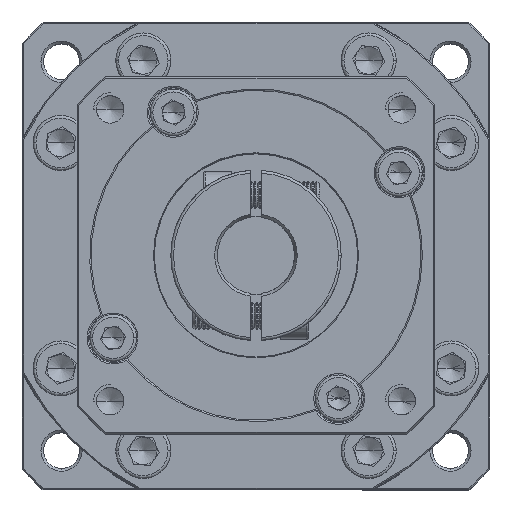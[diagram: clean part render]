
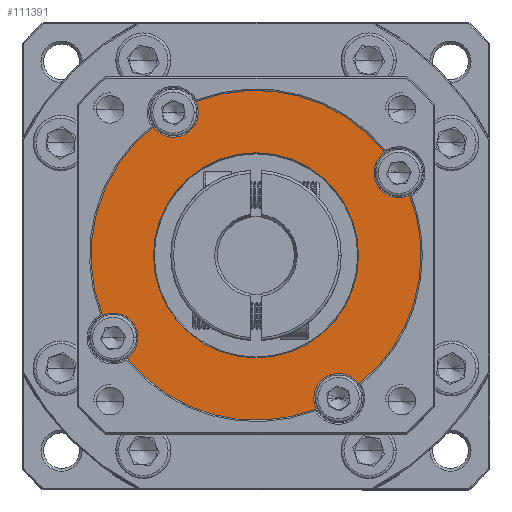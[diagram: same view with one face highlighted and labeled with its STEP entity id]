
A CAD part, top view. The second image highlights one B-rep face of the part: STEP entity #111391.
In plain terms, the highlighted planar face has unit normal (0, 0, 1).
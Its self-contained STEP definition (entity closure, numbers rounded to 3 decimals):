
#1340 = CARTESIAN_POINT ( 'NONE',  ( -65.839, 19.997, 4.648 ) ) ;
#1518 = CARTESIAN_POINT ( 'NONE',  ( -37.907, 30.942, 4.648 ) ) ;
#1655 = CARTESIAN_POINT ( 'NONE',  ( -54.894, -7.935, 4.648 ) ) ;
#2735 = EDGE_CURVE ( 'NONE', #70749, #61583, #47654, .T. ) ;
#2831 = CARTESIAN_POINT ( 'NONE',  ( -89.284, 1.28, 4.648 ) ) ;
#3499 = AXIS2_PLACEMENT_3D ( 'NONE', #64846, #10087, #74085 ) ;
#7592 = DIRECTION ( 'NONE',  ( 1., 0., 0. ) ) ;
#8053 = DIRECTION ( 'NONE',  ( 1., 0., 0. ) ) ;
#8427 = CARTESIAN_POINT ( 'NONE',  ( -65.839, 19.997, 4.648 ) ) ;
#8484 = CARTESIAN_POINT ( 'NONE',  ( -65.839, 19.997, 4.648 ) ) ;
#10087 = DIRECTION ( 'NONE',  ( 0., 0., 1. ) ) ;
#10164 = ORIENTED_EDGE ( 'NONE', *, *, #42030, .T. ) ;
#10461 = DIRECTION ( 'NONE',  ( 1., 0., 0. ) ) ;
#11905 = FACE_BOUND ( 'NONE', #18917, .T. ) ;
#15077 = CARTESIAN_POINT ( 'NONE',  ( -91.82, 4.997, 4.648 ) ) ;
#17523 = DIRECTION ( 'NONE',  ( 1., 0., 0. ) ) ;
#17561 = CARTESIAN_POINT ( 'NONE',  ( -65.839, 19.997, 4.648 ) ) ;
#17597 = DIRECTION ( 'NONE',  ( 1., 0., 0. ) ) ;
#18917 = EDGE_LOOP ( 'NONE', ( #28776, #90571 ) ) ;
#19283 = DIRECTION ( 'NONE',  ( 0., 0., 1. ) ) ;
#21914 = VERTEX_POINT ( 'NONE', #24282 ) ;
#24194 = DIRECTION ( 'NONE',  ( 1., 0., 0. ) ) ;
#24282 = CARTESIAN_POINT ( 'NONE',  ( -47.122, -3.447, 4.648 ) ) ;
#26481 = AXIS2_PLACEMENT_3D ( 'NONE', #117590, #62773, #8053 ) ;
#26698 = DIRECTION ( 'NONE',  ( 1., 0., 0. ) ) ;
#28578 = CARTESIAN_POINT ( 'NONE',  ( -50.839, -5.983, 4.648 ) ) ;
#28776 = ORIENTED_EDGE ( 'NONE', *, *, #2735, .T. ) ;
#28827 = AXIS2_PLACEMENT_3D ( 'NONE', #8484, #72455, #17597 ) ;
#28843 = EDGE_CURVE ( 'NONE', #66761, #40594, #66219, .T. ) ;
#29763 = EDGE_CURVE ( 'NONE', #51906, #57929, #49898, .T. ) ;
#31353 = CIRCLE ( 'NONE', #37103, 4.5 ) ;
#31896 = CARTESIAN_POINT ( 'NONE',  ( -91.82, 4.997, 4.648 ) ) ;
#32578 = CIRCLE ( 'NONE', #57863, 30. ) ;
#32986 = CARTESIAN_POINT ( 'NONE',  ( -65.839, 19.997, 4.648 ) ) ;
#34464 = ORIENTED_EDGE ( 'NONE', *, *, #84269, .F. ) ;
#35115 = ORIENTED_EDGE ( 'NONE', *, *, #53298, .T. ) ;
#35420 = CARTESIAN_POINT ( 'NONE',  ( -35.839, 19.997, 4.648 ) ) ;
#36562 = DIRECTION ( 'NONE',  ( 0., 0., 1. ) ) ;
#37103 = AXIS2_PLACEMENT_3D ( 'NONE', #15077, #79086, #24194 ) ;
#37759 = DIRECTION ( 'NONE',  ( 1., 0., 0. ) ) ;
#37909 = ORIENTED_EDGE ( 'NONE', *, *, #28843, .F. ) ;
#38065 = CARTESIAN_POINT ( 'NONE',  ( -87.32, 4.997, 4.648 ) ) ;
#38917 = AXIS2_PLACEMENT_3D ( 'NONE', #8427, #72388, #17523 ) ;
#39135 = AXIS2_PLACEMENT_3D ( 'NONE', #17561, #81621, #26698 ) ;
#40447 = DIRECTION ( 'NONE',  ( 0., 0., 1. ) ) ;
#40594 = VERTEX_POINT ( 'NONE', #97085 ) ;
#41067 = DIRECTION ( 'NONE',  ( 1., 0., 0. ) ) ;
#42030 = EDGE_CURVE ( 'NONE', #66761, #97474, #81001, .T. ) ;
#42064 = DIRECTION ( 'NONE',  ( 0., 0., 1. ) ) ;
#42214 = DIRECTION ( 'NONE',  ( 1., 0., 0. ) ) ;
#43555 = DIRECTION ( 'NONE',  ( 0., 0., 1. ) ) ;
#47462 = ORIENTED_EDGE ( 'NONE', *, *, #61823, .F. ) ;
#47654 = CIRCLE ( 'NONE', #100955, 18.644 ) ;
#49898 = CIRCLE ( 'NONE', #28827, 30. ) ;
#50728 = VERTEX_POINT ( 'NONE', #38065 ) ;
#51906 = VERTEX_POINT ( 'NONE', #2831 ) ;
#52029 = CIRCLE ( 'NONE', #3499, 4.5 ) ;
#52950 = ORIENTED_EDGE ( 'NONE', *, *, #106378, .T. ) ;
#53298 = EDGE_CURVE ( 'NONE', #21914, #93131, #32578, .T. ) ;
#57212 = AXIS2_PLACEMENT_3D ( 'NONE', #117149, #62305, #7592 ) ;
#57863 = AXIS2_PLACEMENT_3D ( 'NONE', #74160, #19283, #83346 ) ;
#57929 = VERTEX_POINT ( 'NONE', #1655 ) ;
#58611 = AXIS2_PLACEMENT_3D ( 'NONE', #1340, #65230, #10461 ) ;
#60739 = ORIENTED_EDGE ( 'NONE', *, *, #74019, .F. ) ;
#61384 = AXIS2_PLACEMENT_3D ( 'NONE', #96839, #42064, #106102 ) ;
#61583 = VERTEX_POINT ( 'NONE', #102397 ) ;
#61823 = EDGE_CURVE ( 'NONE', #50728, #64706, #97844, .T. ) ;
#62039 = CIRCLE ( 'NONE', #69104, 4.5 ) ;
#62305 = DIRECTION ( 'NONE',  ( 0., 0., 1. ) ) ;
#62773 = DIRECTION ( 'NONE',  ( 0., 0., 1. ) ) ;
#63522 = CARTESIAN_POINT ( 'NONE',  ( -55.339, -5.983, 4.648 ) ) ;
#64706 = VERTEX_POINT ( 'NONE', #85463 ) ;
#64846 = CARTESIAN_POINT ( 'NONE',  ( -50.839, -5.983, 4.648 ) ) ;
#65230 = DIRECTION ( 'NONE',  ( 0., 0., -1. ) ) ;
#65775 = EDGE_CURVE ( 'NONE', #40594, #111244, #79405, .T. ) ;
#66219 = CIRCLE ( 'NONE', #67142, 4.5 ) ;
#66761 = VERTEX_POINT ( 'NONE', #94737 ) ;
#67142 = AXIS2_PLACEMENT_3D ( 'NONE', #91442, #36562, #100609 ) ;
#67248 = CARTESIAN_POINT ( 'NONE',  ( -76.784, 47.929, 4.648 ) ) ;
#67375 = AXIS2_PLACEMENT_3D ( 'NONE', #31896, #95876, #41067 ) ;
#69104 = AXIS2_PLACEMENT_3D ( 'NONE', #28578, #92648, #37759 ) ;
#70749 = VERTEX_POINT ( 'NONE', #115431 ) ;
#71559 = CIRCLE ( 'NONE', #57212, 4.5 ) ;
#72388 = DIRECTION ( 'NONE',  ( 0., 0., 1. ) ) ;
#72455 = DIRECTION ( 'NONE',  ( 0., 0., 1. ) ) ;
#73647 = CIRCLE ( 'NONE', #39135, 30. ) ;
#74019 = EDGE_CURVE ( 'NONE', #51906, #50728, #31353, .T. ) ;
#74085 = DIRECTION ( 'NONE',  ( 1., 0., 0. ) ) ;
#74160 = CARTESIAN_POINT ( 'NONE',  ( -65.839, 19.997, 4.648 ) ) ;
#74955 = ORIENTED_EDGE ( 'NONE', *, *, #76650, .F. ) ;
#75825 = VERTEX_POINT ( 'NONE', #101201 ) ;
#76650 = EDGE_CURVE ( 'NONE', #75825, #92533, #95218, .T. ) ;
#77633 = CIRCLE ( 'NONE', #86065, 30. ) ;
#79086 = DIRECTION ( 'NONE',  ( 0., 0., 1. ) ) ;
#79290 = ORIENTED_EDGE ( 'NONE', *, *, #65775, .F. ) ;
#79405 = CIRCLE ( 'NONE', #26481, 4.5 ) ;
#80901 = CARTESIAN_POINT ( 'NONE',  ( -76.339, 45.978, 4.648 ) ) ;
#81001 = CIRCLE ( 'NONE', #38917, 30. ) ;
#81621 = DIRECTION ( 'NONE',  ( 0., 0., 1. ) ) ;
#81973 = ORIENTED_EDGE ( 'NONE', *, *, #115495, .F. ) ;
#82034 = FACE_OUTER_BOUND ( 'NONE', #89092, .T. ) ;
#83346 = DIRECTION ( 'NONE',  ( 1., 0., 0. ) ) ;
#84269 = EDGE_CURVE ( 'NONE', #88641, #57929, #52029, .T. ) ;
#85463 = CARTESIAN_POINT ( 'NONE',  ( -93.771, 9.052, 4.648 ) ) ;
#85809 = PLANE ( 'NONE',  #101891 ) ;
#86065 = AXIS2_PLACEMENT_3D ( 'NONE', #98334, #43555, #107612 ) ;
#88641 = VERTEX_POINT ( 'NONE', #63522 ) ;
#89092 = EDGE_LOOP ( 'NONE', ( #60739, #91170, #34464, #103968, #35115, #101982, #79290, #37909, #10164, #81973, #74955, #52950, #47462 ) ) ;
#90571 = ORIENTED_EDGE ( 'NONE', *, *, #92722, .T. ) ;
#91170 = ORIENTED_EDGE ( 'NONE', *, *, #29763, .T. ) ;
#91442 = CARTESIAN_POINT ( 'NONE',  ( -39.859, 34.997, 4.648 ) ) ;
#92321 = CIRCLE ( 'NONE', #58611, 18.644 ) ;
#92533 = VERTEX_POINT ( 'NONE', #80901 ) ;
#92648 = DIRECTION ( 'NONE',  ( 0., 0., 1. ) ) ;
#92722 = EDGE_CURVE ( 'NONE', #61583, #70749, #92321, .T. ) ;
#93131 = VERTEX_POINT ( 'NONE', #35420 ) ;
#94737 = CARTESIAN_POINT ( 'NONE',  ( -42.395, 38.715, 4.648 ) ) ;
#95146 = EDGE_CURVE ( 'NONE', #21914, #88641, #62039, .T. ) ;
#95218 = CIRCLE ( 'NONE', #61384, 4.5 ) ;
#95293 = CARTESIAN_POINT ( 'NONE',  ( -65.839, 19.997, 4.648 ) ) ;
#95876 = DIRECTION ( 'NONE',  ( 0., 0., 1. ) ) ;
#96839 = CARTESIAN_POINT ( 'NONE',  ( -80.839, 45.978, 4.648 ) ) ;
#96987 = DIRECTION ( 'NONE',  ( 0., 0., -1. ) ) ;
#97085 = CARTESIAN_POINT ( 'NONE',  ( -44.359, 34.997, 4.648 ) ) ;
#97474 = VERTEX_POINT ( 'NONE', #67248 ) ;
#97844 = CIRCLE ( 'NONE', #67375, 4.5 ) ;
#98334 = CARTESIAN_POINT ( 'NONE',  ( -65.839, 19.997, 4.648 ) ) ;
#100609 = DIRECTION ( 'NONE',  ( 1., 0., 0. ) ) ;
#100955 = AXIS2_PLACEMENT_3D ( 'NONE', #32986, #96987, #42214 ) ;
#101201 = CARTESIAN_POINT ( 'NONE',  ( -84.557, 43.442, 4.648 ) ) ;
#101891 = AXIS2_PLACEMENT_3D ( 'NONE', #95293, #40447, #104519 ) ;
#101982 = ORIENTED_EDGE ( 'NONE', *, *, #102369, .T. ) ;
#102369 = EDGE_CURVE ( 'NONE', #93131, #111244, #77633, .T. ) ;
#102397 = CARTESIAN_POINT ( 'NONE',  ( -84.484, 19.997, 4.648 ) ) ;
#103968 = ORIENTED_EDGE ( 'NONE', *, *, #95146, .F. ) ;
#104519 = DIRECTION ( 'NONE',  ( 1., 0., 0. ) ) ;
#106102 = DIRECTION ( 'NONE',  ( 1., 0., 0. ) ) ;
#106378 = EDGE_CURVE ( 'NONE', #75825, #64706, #73647, .T. ) ;
#107612 = DIRECTION ( 'NONE',  ( 1., 0., 0. ) ) ;
#111244 = VERTEX_POINT ( 'NONE', #1518 ) ;
#111391 = ADVANCED_FACE ( 'NONE', ( #11905, #82034 ), #85809, .T. ) ;
#115431 = CARTESIAN_POINT ( 'NONE',  ( -47.195, 19.997, 4.648 ) ) ;
#115495 = EDGE_CURVE ( 'NONE', #92533, #97474, #71559, .T. ) ;
#117149 = CARTESIAN_POINT ( 'NONE',  ( -80.839, 45.978, 4.648 ) ) ;
#117590 = CARTESIAN_POINT ( 'NONE',  ( -39.859, 34.997, 4.648 ) ) ;
